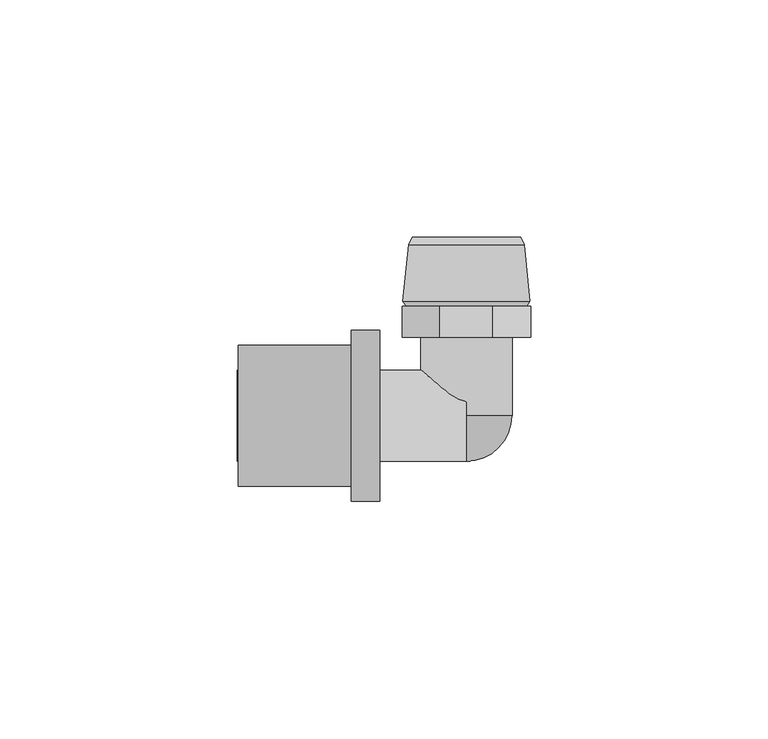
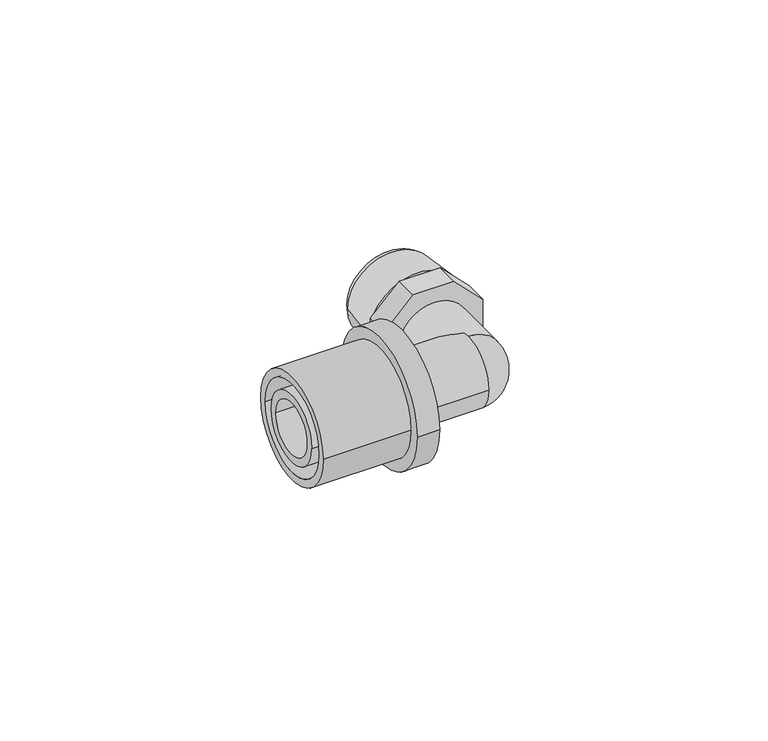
"""IFC4 building model written with IfcOpenShell, lengths in millimetres: pipe fitting geometry, FASTLOC_Elbow with male thread EX+ : FSL A internal AT."""

import ifcopenshell
import ifcopenshell.guid

model = None  # the IFC model being written
_history = None  # IfcOwnerHistory: only IFC2X3 demands one
_inside = {}  # id of a spatial element -> (the spatial element, [elements in it])
_under = {}  # id of a project, library or spatial element -> (it, [spatial elements below it])
_declared = {}  # id of a project -> (the project, [libraries it declares])
_typed = {}  # id of a type object -> (the type object, [elements of that type])
_made_of = {}  # id of a material, layer set ... -> (it, [elements and type objects made of it])


def new_model(schema):
    """Start an empty IFC model of exactly this schema.

    Asked for "IFC4X3", IfcOpenShell would pick the latest addendum, in which some entities
    have other attributes; the version numbers below select the first issue.
    IFC2X3 requires an IfcOwnerHistory on every rooted entity: one is made here for all.
    """
    global model, _history
    if schema == "IFC4X3":
        model = ifcopenshell.file(schema_version=(4, 3, 0, 0))
    else:
        model = ifcopenshell.file(schema=schema)
    _inside.clear()
    _under.clear()
    _declared.clear()
    _typed.clear()
    _made_of.clear()
    _history = None
    if model.schema == "IFC2X3":
        org = make("IfcOrganization", Name="unknown")
        user = make(
            "IfcPersonAndOrganization",
            ThePerson=make("IfcPerson", FamilyName="unknown"),
            TheOrganization=org,
        )
        app = make(
            "IfcApplication",
            ApplicationDeveloper=org,
            Version="unknown",
            ApplicationFullName="unknown",
            ApplicationIdentifier="unknown",
        )
        _history = make(
            "IfcOwnerHistory",
            OwningUser=user,
            OwningApplication=app,
            ChangeAction="ADDED",
            CreationDate=0,
        )
    return model


def make(cls, **values):
    """One entity of the class cls with the attributes given. An attribute that is None is left unset."""
    return model.create_entity(
        cls, **{name: value for name, value in values.items() if value is not None}
    )


def rooted(cls, **values):
    """An entity with a GlobalId (a new one), such as an element, a storey or a relation."""
    return make(cls, GlobalId=ifcopenshell.guid.new(), OwnerHistory=_history, **values)


def si_unit(unit_type, name, prefix=None):
    """IfcSIUnit, for example si_unit("LENGTHUNIT", "METRE", prefix="MILLI")."""
    return make("IfcSIUnit", UnitType=unit_type, Prefix=prefix, Name=name)


def assignment(units):
    """IfcUnitAssignment: the units of a project."""
    return None if units is None else make("IfcUnitAssignment", Units=units)


def point(xyz):
    """IfcCartesianPoint."""
    return None if xyz is None else make("IfcCartesianPoint", Coordinates=xyz)


def direction(xyz):
    """IfcDirection."""
    return None if xyz is None else make("IfcDirection", DirectionRatios=xyz)


def frame(location, z_axis=None, x_axis=None):
    """IfcAxis2Placement3D, a coordinate frame: its origin and axes. An axis left out is left unset."""
    return make(
        "IfcAxis2Placement3D",
        Location=point(location),
        Axis=direction(z_axis),
        RefDirection=direction(x_axis),
    )


def frame_2d(location, x_axis=None):
    """IfcAxis2Placement2D, a coordinate frame in the plane: its origin and x axis."""
    return make(
        "IfcAxis2Placement2D", Location=point(location), RefDirection=direction(x_axis)
    )


def origin():
    """The frame at (0, 0, 0) with its axes left unset."""
    return frame((0.0, 0.0, 0.0))


def origin_2d():
    """The frame at (0, 0) in the plane with its x axis left unset."""
    return frame_2d((0.0, 0.0))


def place(relative_to, where):
    """IfcLocalPlacement: puts the frame where relative to a parent placement (None: the world)."""
    return make(
        "IfcLocalPlacement", PlacementRelTo=relative_to, RelativePlacement=where
    )


def context(
    kind, dimensions, precision=None, world=None, true_north=None, identifier=None
):
    """IfcGeometricRepresentationContext, for example the 3D "Model" context."""
    return make(
        "IfcGeometricRepresentationContext",
        ContextIdentifier=identifier,
        ContextType=kind,
        CoordinateSpaceDimension=dimensions,
        Precision=precision,
        WorldCoordinateSystem=world,
        TrueNorth=true_north,
    )


def project(units=None, contexts=None):
    """IfcProject with its units and contexts."""
    return rooted(
        "IfcProject",
        Name="project",
        RepresentationContexts=contexts,
        UnitsInContext=assignment(units),
    )


def spatial(cls, under=None, at=None, **own):
    """A site, building, storey or space (cls), placed at a placement, below another one or the project."""
    s = rooted(cls, ObjectPlacement=at, **own)
    if under is not None:
        _under.setdefault(under.id(), (under, []))[1].append(s)
    return s


def polyline(points):
    """IfcPolyline through the points."""
    return make("IfcPolyline", Points=[point(p) for p in points])


def circle_curve(where, radius):
    """IfcCircle in the frame where."""
    return make("IfcCircle", Position=where, Radius=radius)


def ellipse_curve(where, semi_axis1, semi_axis2):
    """IfcEllipse in the frame where."""
    return make(
        "IfcEllipse", Position=where, SemiAxis1=semi_axis1, SemiAxis2=semi_axis2
    )


def trimmed(basis, trim1, trim2, sense, master):
    """IfcTrimmedCurve: the piece of a basis curve between two trims."""
    return make(
        "IfcTrimmedCurve",
        BasisCurve=basis,
        Trim1=trim1,
        Trim2=trim2,
        SenseAgreement=sense,
        MasterRepresentation=master,
    )


def segment(curve, same_sense, transition):
    """IfcCompositeCurveSegment."""
    return make(
        "IfcCompositeCurveSegment",
        Transition=transition,
        SameSense=same_sense,
        ParentCurve=curve,
    )


def composite_curve(segments, self_intersect=None):
    """IfcCompositeCurve: segments joined end to end."""
    return make("IfcCompositeCurve", Segments=segments, SelfIntersect=self_intersect)


def outline(outer, holes=None, kind="AREA"):
    """IfcArbitraryClosedProfileDef: a profile drawn as a closed curve; with holes, ...WithVoids."""
    if holes is None:
        return make("IfcArbitraryClosedProfileDef", ProfileType=kind, OuterCurve=outer)
    return make(
        "IfcArbitraryProfileDefWithVoids",
        ProfileType=kind,
        OuterCurve=outer,
        InnerCurves=holes,
    )


def extrude(swept, where, along, depth):
    """IfcExtrudedAreaSolid: the profile swept, set in the frame where, extruded along a direction by depth."""
    return make(
        "IfcExtrudedAreaSolid",
        SweptArea=swept,
        Position=where,
        ExtrudedDirection=direction(along),
        Depth=depth,
    )


def shape(context_of_items, identifier, shape_type, items):
    """IfcShapeRepresentation: the items that make up one representation, for example the "Body"."""
    return make(
        "IfcShapeRepresentation",
        ContextOfItems=context_of_items,
        RepresentationIdentifier=identifier,
        RepresentationType=shape_type,
        Items=items,
    )


def source(mapping_origin, context_of_items, identifier, shape_type, items):
    """IfcRepresentationMap: a shape defined once, which mapped items show again and again."""
    return make(
        "IfcRepresentationMap",
        MappingOrigin=mapping_origin,
        MappedRepresentation=shape(context_of_items, identifier, shape_type, items),
    )


def transform(
    local_origin,
    x_axis=None,
    y_axis=None,
    z_axis=None,
    scale=None,
    scale2=None,
    scale3=None,
    uniform=True,
):
    """IfcCartesianTransformationOperator3D, or its non-uniform kind. x_axis, y_axis, z_axis: its Axis1, 2, 3."""
    if uniform:
        return make(
            "IfcCartesianTransformationOperator3D",
            Axis1=direction(x_axis),
            Axis2=direction(y_axis),
            LocalOrigin=point(local_origin),
            Scale=scale,
            Axis3=direction(z_axis),
        )
    return make(
        "IfcCartesianTransformationOperator3DnonUniform",
        Axis1=direction(x_axis),
        Axis2=direction(y_axis),
        LocalOrigin=point(local_origin),
        Scale=scale,
        Axis3=direction(z_axis),
        Scale2=scale2,
        Scale3=scale3,
    )


def mapped(mapping_source, mapping_target):
    """IfcMappedItem: shows the shape of a source again, moved by a transform."""
    return make(
        "IfcMappedItem", MappingSource=mapping_source, MappingTarget=mapping_target
    )


def made_of(thing, what):
    """Note that an element or type object is made of a material, layer set ...; save() writes the relation."""
    if what is not None:
        _made_of.setdefault(what.id(), (what, []))[1].append(thing)
    return thing


def element(
    cls,
    number,
    at=None,
    inside=None,
    cuts=None,
    type_object=None,
    material=None,
    context=None,
    identifier="Body",
    shape_type=None,
    held_by="IfcProductDefinitionShape",
    body=None,
    shapes=None,
    **own,
):
    """One element of the class cls, such as IfcWall. Its Tag is "e" and its number.

    at: its placement. inside: the storey or other place that contains it. cuts: it is an
    opening in that element (IfcRelVoidsElement). A single representation is given by context,
    identifier, shape_type and body (its items); several are given by shapes. held_by: the class
    of the entity that holds the representations. save() writes the other relations.
    """
    e = rooted(cls, Tag="e%d" % number, ObjectPlacement=at, **own)
    if body is not None:
        shapes = [shape(context, identifier, shape_type, body)]
    if shapes is not None:
        e.Representation = make(held_by, Representations=shapes)
    if inside is not None:
        _inside.setdefault(inside.id(), (inside, []))[1].append(e)
    if cuts is not None:
        rooted(
            "IfcRelVoidsElement", RelatingBuildingElement=cuts, RelatedOpeningElement=e
        )
    if type_object is not None:
        _typed.setdefault(type_object.id(), (type_object, []))[1].append(e)
    return made_of(e, material)


def aggregate(whole, parts):
    """IfcRelAggregates: a whole, such as a stair, and the parts it consists of."""
    return rooted("IfcRelAggregates", RelatingObject=whole, RelatedObjects=parts)


def save(model, path):
    """Write the relations noted so far, then the file.

    IfcRelAggregates (storeys below a building ...), IfcRelContainedInSpatialStructure (elements
    in a storey), IfcRelDefinesByType, IfcRelAssociatesMaterial and IfcRelDeclares: one each for
    every whole, place, type object, material and project.
    """
    for whole, parts in _under.values():
        aggregate(whole, parts)
    for where, things in _inside.values():
        rooted(
            "IfcRelContainedInSpatialStructure",
            RelatedElements=things,
            RelatingStructure=where,
        )
    for kind, things in _typed.values():
        rooted("IfcRelDefinesByType", RelatedObjects=things, RelatingType=kind)
    for what, things in _made_of.values():
        rooted("IfcRelAssociatesMaterial", RelatedObjects=things, RelatingMaterial=what)
    for by, libraries in _declared.values():
        rooted("IfcRelDeclares", RelatingContext=by, RelatedDefinitions=libraries)
    model.write(path)


def plane_surface(at):
    """IfcPlane: the flat surface through the origin of the frame at, square to its z axis."""
    return make("IfcPlane", Position=at)


def cylinder_surface(at, radius):
    """IfcCylindricalSurface: all points at the distance radius from the z axis of the frame at."""
    return make("IfcCylindricalSurface", Position=at, Radius=radius)


def revolved_surface(curve, axis_point, axis_direction):
    """IfcSurfaceOfRevolution: the curve turned about the line through axis_point along axis_direction."""
    return make(
        "IfcSurfaceOfRevolution",
        SweptCurve=make("IfcArbitraryOpenProfileDef", ProfileType="CURVE", Curve=curve),
        AxisPosition=make("IfcAxis1Placement", Location=point(axis_point), Axis=direction(axis_direction)),
    )


def advanced_brep(points, edges, surfaces, faces):
    """IfcAdvancedBrep: a solid bounded by faces that lie on surfaces and meet in shared edges.

    An edge is (start, end): straight between two places in points (the first is 0);
    or (start, end, curve); or (start, end, curve, False) where it runs against its curve.
    A face is (place in surfaces, loops), or (place, loops, False) where it looks against
    its surface's normal. A loop lists edges by number (the first is 1), with a minus sign
    where the edge is run from its end to its start. The first loop is the outer one.
    """
    corners = [point(p) for p in points]
    vertices = [make("IfcVertexPoint", VertexGeometry=c) for c in corners]
    made = []
    for start, end, *more in edges:
        made.append(
            make(
                "IfcEdgeCurve",
                EdgeStart=vertices[start],
                EdgeEnd=vertices[end],
                EdgeGeometry=more[0] if more else make("IfcPolyline", Points=[corners[start], corners[end]]),
                SameSense=more[1] if len(more) > 1 else True,
            )
        )
    hull = []
    for where, loops, *sense in faces:
        bounds = []
        for j, loop in enumerate(loops):
            ring = [make("IfcOrientedEdge", EdgeElement=made[abs(k) - 1], Orientation=k > 0) for k in loop]
            bounds.append(
                make(
                    "IfcFaceOuterBound" if j == 0 else "IfcFaceBound",
                    Bound=make("IfcEdgeLoop", EdgeList=ring),
                    Orientation=True,
                )
            )
        hull.append(make("IfcAdvancedFace", Bounds=bounds, FaceSurface=surfaces[where], SameSense=sense[0] if sense else True))
    return make("IfcAdvancedBrep", Outer=make("IfcClosedShell", CfsFaces=hull))


def pipe_fitting_d71fb650(model_context):
    return source(origin(), model_context, "Body", "SolidModel", [
        advanced_brep(
        [(-24.2, -18.0, 0.0), (-24.2, 18.0, 0.0), (-18.2, 18.0, 0.0), (-18.2, -18.0, 0.0), (-48.0, -14.85, 0.0), (-48.0, 14.85, 0.0), (-24.2, 14.85, 0.0), (-24.2, -14.85, 0.0), (-18.2, -12.65, 0.0), (-18.2, 12.65, 0.0), (-48.0, 12.65, 0.0), (-48.0, -12.65, 0.0)],
        [
            (0, 1, circle_curve(frame((-24.2, 0.0, 0.0), z_axis=(1.0, 0.0, 0.0), x_axis=(0.0, 1.0, 0.0)), 18.0)),
            (1, 2),
            (2, 3, circle_curve(frame((-18.2, 0.0, 0.0), z_axis=(-1.0, 0.0, 0.0), x_axis=(0.0, 1.0, 0.0)), 18.0)),
            (3, 0),
            (4, 5, circle_curve(frame((-48.0, 0.0, 0.0), z_axis=(1.0, 0.0, 0.0), x_axis=(0.0, 1.0, 0.0)), 14.85)),
            (5, 6),
            (6, 7, circle_curve(frame((-24.2, 0.0, 0.0), z_axis=(-1.0, 0.0, 0.0), x_axis=(0.0, 1.0, 0.0)), 14.85)),
            (7, 4),
            (8, 9, circle_curve(frame((-18.2, 0.0, 0.0), z_axis=(1.0, 0.0, 0.0), x_axis=(0.0, 1.0, 0.0)), 12.65)),
            (9, 10),
            (10, 11, circle_curve(frame((-48.0, 0.0, 0.0), z_axis=(-1.0, 0.0, 0.0), x_axis=(0.0, 1.0, 0.0)), 12.65)),
            (11, 8),
            (1, 0, circle_curve(frame((-24.2, 0.0, 0.0), z_axis=(1.0, 0.0, 0.0), x_axis=(0.0, -1.0, 0.0)), 18.0)),
            (3, 2, circle_curve(frame((-18.2, 0.0, 0.0), z_axis=(-1.0, 0.0, 0.0), x_axis=(0.0, -1.0, 0.0)), 18.0)),
            (6, 7, circle_curve(frame((-24.2, 0.0, 0.0), z_axis=(1.0, 0.0, 0.0), x_axis=(0.0, -1.0, 0.0)), 14.85)),
            (5, 4, circle_curve(frame((-48.0, 0.0, 0.0), z_axis=(1.0, 0.0, 0.0), x_axis=(0.0, -1.0, 0.0)), 14.85)),
            (10, 11, circle_curve(frame((-48.0, 0.0, 0.0), z_axis=(1.0, 0.0, 0.0), x_axis=(0.0, -1.0, 0.0)), 12.65)),
            (9, 8, circle_curve(frame((-18.2, 0.0, 0.0), z_axis=(1.0, 0.0, 0.0), x_axis=(0.0, -1.0, 0.0)), 12.65)),
        ],
        [
            cylinder_surface(frame((-18.2, 0.0, 0.0), z_axis=(-1.0, 0.0, 0.0), x_axis=(0.0, 1.0, 0.0)), 18.0),
            cylinder_surface(frame((-18.2, 0.0, 0.0), z_axis=(-1.0, 0.0, 0.0), x_axis=(0.0, 1.0, 0.0)), 14.85),
            revolved_surface(polyline([(-48.0, 12.65, 0.0), (-18.2, 12.65, 0.0)]), (-18.2, 0.0, 0.0), (-1.0, 0.0, 0.0)),
            cylinder_surface(frame((-18.2, 0.0, 0.0), z_axis=(-1.0, 0.0, 0.0), x_axis=(0.0, -1.0, 0.0)), 18.0),
            plane_surface(frame((-24.2, 0.0, 0.0), z_axis=(-1.0, 0.0, 0.0), x_axis=(0.0, -1.0, 0.0))),
            cylinder_surface(frame((-18.2, 0.0, 0.0), z_axis=(-1.0, 0.0, 0.0), x_axis=(0.0, -1.0, 0.0)), 14.85),
            plane_surface(frame((-48.0, 0.0, 0.0), z_axis=(-1.0, 0.0, 0.0), x_axis=(0.0, -1.0, 0.0))),
            revolved_surface(polyline([(-48.0, -12.65, 0.0), (-18.2, -12.65, 0.0)]), (-18.2, 0.0, 0.0), (-1.0, 0.0, 0.0)),
            plane_surface(frame((-18.2, 0.0, 0.0), z_axis=(1.0, 0.0, 0.0), x_axis=(0.0, -1.0, 0.0))),
        ],
        [
            (0, [[1, 2, 3, 4]]),
            (1, [[5, 6, 7, 8]]),
            (2, [[9, 10, 11, 12]]),
            (3, [[13, -4, 14, -2]]),
            (4, [[-13, -1], [15, -7]]),
            (5, [[16, -8, -15, -6]]),
            (6, [[-16, -5], [17, -11]]),
            (7, [[18, -12, -17, -10]]),
            (8, [[-14, -3], [-18, -9]]),
        ],
    ),
        advanced_brep(
        [(12.15, 36.0000007, 0.0), (-12.15, 36.0000007, 0.0), (-11.45, 37.5, 0.0), (11.45, 37.5, 0.0), (13.35, 24.0531902, 0.0), (-13.35, 24.0531902, 0.0), (12.7, 23.0, 0.0), (-12.7, 23.0, 0.0), (9.5, 24.4157803, 0.0), (-9.5, 24.4157803, 0.0), (-8.3967197, 23.0, 0.0), (8.3967197, 23.0, 0.0), (9.5, 37.5, 0.0), (-9.5, 37.5, 0.0)],
        [
            (0, 1, circle_curve(frame((0.0, 36.0000007, 0.0), z_axis=(0.0, 1.0, 0.0), x_axis=(-1.0, 0.0, 0.0)), 12.15)),
            (1, 2),
            (2, 3, circle_curve(frame((0.0, 37.5, 0.0), z_axis=(0.0, -1.0, 0.0), x_axis=(-1.0, 0.0, 0.0)), 11.45)),
            (3, 0),
            (4, 5, circle_curve(frame((0.0, 24.0531902, 0.0), z_axis=(0.0, 1.0, 0.0), x_axis=(-1.0, 0.0, 0.0)), 13.35)),
            (5, 1),
            (0, 4),
            (6, 7, circle_curve(frame((0.0, 23.0, 0.0), z_axis=(0.0, 1.0, 0.0), x_axis=(-1.0, 0.0, 0.0)), 12.7)),
            (7, 5),
            (4, 6),
            (8, 9, circle_curve(frame((0.0, 24.4157803, 0.0), z_axis=(0.0, 1.0, 0.0), x_axis=(-1.0, 0.0, 0.0)), 9.5)),
            (9, 10),
            (10, 11, circle_curve(frame((0.0, 23.0, 0.0), z_axis=(0.0, -1.0, 0.0), x_axis=(-1.0, 0.0, 0.0)), 8.3967197)),
            (11, 8),
            (12, 13, circle_curve(frame((0.0, 37.5, 0.0), z_axis=(0.0, 1.0, 0.0), x_axis=(-1.0, 0.0, 0.0)), 9.5)),
            (13, 9),
            (8, 12),
            (2, 3, circle_curve(frame((0.0, 37.5, 0.0), z_axis=(0.0, 1.0, 0.0), x_axis=(1.0, 0.0, 0.0)), 11.45)),
            (12, 13, circle_curve(frame((0.0, 37.5, 0.0), z_axis=(0.0, -1.0, 0.0), x_axis=(1.0, 0.0, 0.0)), 9.5)),
            (1, 0, circle_curve(frame((0.0, 36.0000007, 0.0), z_axis=(0.0, 1.0, 0.0), x_axis=(1.0, 0.0, 0.0)), 12.15)),
            (5, 4, circle_curve(frame((0.0, 24.0531902, 0.0), z_axis=(0.0, 1.0, 0.0), x_axis=(1.0, 0.0, 0.0)), 13.35)),
            (7, 6, circle_curve(frame((0.0, 23.0, 0.0), z_axis=(0.0, 1.0, 0.0), x_axis=(1.0, 0.0, 0.0)), 12.7)),
            (10, 11, circle_curve(frame((0.0, 23.0, 0.0), z_axis=(0.0, 1.0, 0.0), x_axis=(1.0, 0.0, 0.0)), 8.3967197)),
            (9, 8, circle_curve(frame((0.0, 24.4157803, 0.0), z_axis=(0.0, 1.0, 0.0), x_axis=(1.0, 0.0, 0.0)), 9.5)),
        ],
        [
            revolved_surface(polyline([(-11.45, 37.5, 0.0), (-12.15, 36.0000007, 0.0)]), (0.0, 16.5, 0.0), (0.0, -1.0, 0.0)),
            revolved_surface(polyline([(-12.15, 36.0000007, 0.0), (-13.35, 24.0531902, 0.0)]), (0.0, 16.5, 0.0), (0.0, -1.0, 0.0)),
            revolved_surface(polyline([(-13.35, 24.0531902, 0.0), (-12.7, 23.0, 0.0)]), (0.0, 16.5, 0.0), (0.0, -1.0, 0.0)),
            revolved_surface(polyline([(-8.3967197, 23.0, 0.0), (-9.5, 24.4157803, 0.0)]), (0.0, 16.5, 0.0), (0.0, -1.0, 0.0)),
            revolved_surface(polyline([(-9.5, 24.4157803, 0.0), (-9.5, 37.5, 0.0)]), (0.0, 16.5, 0.0), (0.0, -1.0, 0.0)),
            plane_surface(frame((0.0, 37.5, 0.0), z_axis=(0.0, 1.0, 0.0), x_axis=(1.0, 0.0, 0.0))),
            revolved_surface(polyline([(11.45, 37.5, 0.0), (12.15, 36.0000007, 0.0)]), (0.0, 16.5, 0.0), (0.0, -1.0, 0.0)),
            revolved_surface(polyline([(12.15, 36.0000007, 0.0), (13.35, 24.0531902, 0.0)]), (0.0, 16.5, 0.0), (0.0, -1.0, 0.0)),
            revolved_surface(polyline([(13.35, 24.0531902, 0.0), (12.7, 23.0, 0.0)]), (0.0, 16.5, 0.0), (0.0, -1.0, 0.0)),
            plane_surface(frame((0.0, 23.0, 0.0), z_axis=(0.0, -1.0, 0.0), x_axis=(1.0, 0.0, 0.0))),
            revolved_surface(polyline([(8.3967197, 23.0, 0.0), (9.5, 24.4157803, 0.0)]), (0.0, 16.5, 0.0), (0.0, -1.0, 0.0)),
            revolved_surface(polyline([(9.5, 24.4157803, 0.0), (9.5, 37.5, 0.0)]), (0.0, 16.5, 0.0), (0.0, -1.0, 0.0)),
        ],
        [
            (0, [[1, 2, 3, 4]]),
            (1, [[5, 6, -1, 7]]),
            (2, [[8, 9, -5, 10]]),
            (3, [[11, 12, 13, 14]]),
            (4, [[15, 16, -11, 17]]),
            (5, [[18, -3], [19, -15]]),
            (6, [[20, -4, -18, -2]]),
            (7, [[21, -7, -20, -6]]),
            (8, [[22, -10, -21, -9]]),
            (9, [[-22, -8], [23, -13]]),
            (10, [[24, -14, -23, -12]]),
            (11, [[-19, -17, -24, -16]]),
        ],
    ),
        advanced_brep(
        [(-24.2, 9.6, 0.0), (-24.2, -9.6, 0.0), (-48.2, -9.6, 0.0), (-48.2, 9.6, 0.0), (-21.4, 11.1, 0.0), (-21.4, -11.1, 0.0), (-24.2, -11.1, 0.0), (-24.2, 11.1, 0.0), (0.0, 9.6, 0.0), (0.0, -9.6, 0.0), (-21.4, -9.6, 0.0), (-21.4, 9.6, 0.0), (-48.2, 7.35, 0.0), (-48.2, -7.35, 0.0), (0.0, -7.35, 0.0), (0.0, 7.35, 0.0)],
        [
            (0, 1, circle_curve(frame((-24.2, 0.0, 0.0), z_axis=(-1.0, 0.0, 0.0), x_axis=(0.0, -1.0, 0.0)), 9.6)),
            (1, 2),
            (2, 3, circle_curve(frame((-48.2, 0.0, 0.0), z_axis=(1.0, 0.0, 0.0), x_axis=(0.0, -1.0, 0.0)), 9.6)),
            (3, 0),
            (4, 5, circle_curve(frame((-21.4, 0.0, 0.0), z_axis=(-1.0, 0.0, 0.0), x_axis=(0.0, -1.0, 0.0)), 11.1)),
            (5, 6),
            (6, 7, circle_curve(frame((-24.2, 0.0, 0.0), z_axis=(1.0, 0.0, 0.0), x_axis=(0.0, -1.0, 0.0)), 11.1)),
            (7, 4),
            (8, 9, circle_curve(frame((0.0, 0.0, 0.0), z_axis=(-1.0, 0.0, 0.0), x_axis=(0.0, -1.0, 0.0)), 9.6)),
            (9, 10),
            (10, 11, circle_curve(frame((-21.4, 0.0, 0.0), z_axis=(1.0, 0.0, 0.0), x_axis=(0.0, -1.0, 0.0)), 9.6)),
            (11, 8),
            (12, 13, circle_curve(frame((-48.2, 0.0, 0.0), z_axis=(-1.0, 0.0, 0.0), x_axis=(0.0, -1.0, 0.0)), 7.35)),
            (13, 14),
            (14, 15, circle_curve(frame((0.0, 0.0, 0.0), z_axis=(1.0, 0.0, 0.0), x_axis=(0.0, -1.0, 0.0)), 7.35)),
            (15, 12),
            (2, 3, circle_curve(frame((-48.2, 0.0, 0.0), z_axis=(-1.0, 0.0, 0.0), x_axis=(0.0, 1.0, 0.0)), 9.6)),
            (12, 13, circle_curve(frame((-48.2, 0.0, 0.0), z_axis=(1.0, 0.0, 0.0), x_axis=(0.0, 1.0, 0.0)), 7.35)),
            (1, 0, circle_curve(frame((-24.2, 0.0, 0.0), z_axis=(-1.0, 0.0, 0.0), x_axis=(0.0, 1.0, 0.0)), 9.6)),
            (6, 7, circle_curve(frame((-24.2, 0.0, 0.0), z_axis=(-1.0, 0.0, 0.0), x_axis=(0.0, 1.0, 0.0)), 11.1)),
            (5, 4, circle_curve(frame((-21.4, 0.0, 0.0), z_axis=(-1.0, 0.0, 0.0), x_axis=(0.0, 1.0, 0.0)), 11.1)),
            (10, 11, circle_curve(frame((-21.4, 0.0, 0.0), z_axis=(-1.0, 0.0, 0.0), x_axis=(0.0, 1.0, 0.0)), 9.6)),
            (9, 8, circle_curve(frame((0.0, 0.0, 0.0), z_axis=(-1.0, 0.0, 0.0), x_axis=(0.0, 1.0, 0.0)), 9.6)),
            (14, 15, circle_curve(frame((0.0, 0.0, 0.0), z_axis=(-1.0, 0.0, 0.0), x_axis=(0.0, 1.0, 0.0)), 7.35)),
        ],
        [
            cylinder_surface(frame((0.0, 0.0, 0.0), z_axis=(1.0, 0.0, 0.0), x_axis=(0.0, -1.0, 0.0)), 9.6),
            cylinder_surface(frame((0.0, 0.0, 0.0), z_axis=(1.0, 0.0, 0.0), x_axis=(0.0, -1.0, 0.0)), 11.1),
            revolved_surface(polyline([(0.0, -7.35, 0.0), (-48.2, -7.35, 0.0)]), (0.0, 0.0, 0.0), (1.0, 0.0, 0.0)),
            plane_surface(frame((-48.2, 0.0, 0.0), z_axis=(-1.0, 0.0, 0.0), x_axis=(0.0, 1.0, 0.0))),
            cylinder_surface(frame((0.0, 0.0, 0.0), z_axis=(1.0, 0.0, 0.0), x_axis=(0.0, 1.0, 0.0)), 9.6),
            plane_surface(frame((-24.2, 0.0, 0.0), z_axis=(-1.0, 0.0, 0.0), x_axis=(0.0, 1.0, 0.0))),
            cylinder_surface(frame((0.0, 0.0, 0.0), z_axis=(1.0, 0.0, 0.0), x_axis=(0.0, 1.0, 0.0)), 11.1),
            plane_surface(frame((-21.4, 0.0, 0.0), z_axis=(1.0, 0.0, 0.0), x_axis=(0.0, 1.0, 0.0))),
            plane_surface(frame((0.0, 0.0, 0.0), z_axis=(1.0, 0.0, 0.0), x_axis=(0.0, 1.0, 0.0))),
            revolved_surface(polyline([(0.0, 7.35, 0.0), (-48.2, 7.35, 0.0)]), (0.0, 0.0, 0.0), (1.0, 0.0, 0.0)),
        ],
        [
            (0, [[1, 2, 3, 4]]),
            (1, [[5, 6, 7, 8]]),
            (0, [[9, 10, 11, 12]]),
            (2, [[13, 14, 15, 16]]),
            (3, [[17, -3], [18, -13]]),
            (4, [[19, -4, -17, -2]]),
            (5, [[20, -7], [-19, -1]]),
            (6, [[21, -8, -20, -6]]),
            (7, [[-21, -5], [22, -11]]),
            (4, [[23, -12, -22, -10]]),
            (8, [[-23, -9], [24, -15]]),
            (9, [[-18, -16, -24, -14]]),
        ],
    ),
        advanced_brep(
        [(0.0, -9.6, 0.0), (0.0, 0.0, 9.6), (0.0, 0.0, 7.35), (0.0, -7.35, 0.0), (0.0, 0.0, -7.35), (0.0, 0.0, -9.6)],
        [
            (0, 1, circle_curve(frame((0.0, 0.0, 0.0), z_axis=(-1.0, 0.0, 0.0), x_axis=(0.0, 0.0, 1.0)), 9.6)),
            (1, 2),
            (2, 3, circle_curve(frame((0.0, 0.0, 0.0), z_axis=(1.0, 0.0, 0.0), x_axis=(0.0, 0.0, 1.0)), 7.35)),
            (3, 0),
            (3, 4, circle_curve(frame((0.0, 0.0, 0.0), z_axis=(1.0, 0.0, 0.0), x_axis=(0.0, 0.0, -1.0)), 7.35)),
            (4, 5),
            (5, 0, circle_curve(frame((0.0, 0.0, 0.0), z_axis=(-1.0, 0.0, 0.0), x_axis=(0.0, 0.0, -1.0)), 9.6)),
            (5, 1, circle_curve(frame((0.0, 0.0, 0.0), z_axis=(0.0, -1.0, 0.0), x_axis=(0.0, 0.0, 1.0)), 9.6)),
            (4, 2, circle_curve(frame((0.0, 0.0, 0.0), z_axis=(0.0, -1.0, 0.0), x_axis=(0.0, 0.0, 1.0)), 7.35)),
        ],
        [
            plane_surface(frame((0.0, 0.0, 0.0), z_axis=(-1.0, 0.0, 0.0), x_axis=(0.0, 0.0, 1.0))),
            plane_surface(frame((0.0, 0.0, 0.0), z_axis=(-1.0, 0.0, 0.0), x_axis=(0.0, 0.0, -1.0))),
            revolved_surface(trimmed(ellipse_curve(frame((0.0, 0.0, 0.0), z_axis=(-1.0, 0.0, 0.0), x_axis=(0.0, 0.0, 1.0)), 9.6, 9.6), [point((0.0, -9.6, 0.0))], [point((0.0, 0.0, 9.6))], True, "CARTESIAN"), (0.0, 0.0, 0.0), (0.0, 1.0, 0.0)),
            plane_surface(frame((0.0, 0.0, 0.0), z_axis=(0.0, 1.0, 0.0), x_axis=(0.0, 0.0, 1.0))),
            revolved_surface(trimmed(ellipse_curve(frame((0.0, 0.0, 0.0), z_axis=(1.0, 0.0, 0.0), x_axis=(0.0, 0.0, 1.0)), 7.35, 7.35), [point((0.0, 0.0, 7.35))], [point((0.0, -7.35, 0.0))], True, "CARTESIAN"), (0.0, 0.0, 0.0), (0.0, 1.0, 0.0)),
        ],
        [
            (0, [[1, 2, 3, 4]]),
            (1, [[5, 6, 7, -4]]),
            (2, [[8, -1, -7]]),
            (3, [[9, -2, -8, -6]]),
            (4, [[-3, -9, -5]]),
        ],
    ),
        extrude(outline(polyline([(-13.5, 5.5918831), (-5.5918831, 13.5), (5.5918831, 13.5), (13.5, 5.5918831), (13.5, -5.5918831), (5.5918831, -13.5), (-5.5918831, -13.5), (-13.5, -5.5918831), (-13.5, 5.5918831)])), frame((0.0, 16.5, 0.0), z_axis=(0.0, 1.0, 0.0), x_axis=(0.0, 0.0, 1.0)), (0.0, 0.0, 1.0), 6.5),
        extrude(outline(composite_curve([segment(trimmed(circle_curve(origin_2d(), 9.6), [point((0.0, -9.6))], [point((0.0, 9.6))], False, "CARTESIAN"), True, "CONTINUOUS"), segment(trimmed(circle_curve(origin_2d(), 9.6), [point((0.0, 9.6))], [point((0.0, -9.6))], False, "CARTESIAN"), True, "CONTINUOUS")], self_intersect=False), holes=[composite_curve([segment(trimmed(circle_curve(origin_2d(), 7.35), [point((0.0, -7.35))], [point((0.0, 7.35))], True, "CARTESIAN"), True, "CONTINUOUS"), segment(trimmed(circle_curve(origin_2d(), 7.35), [point((0.0, 7.35))], [point((0.0, -7.35))], True, "CARTESIAN"), True, "CONTINUOUS")], self_intersect=False)]), frame((0.0, 0.0, 0.0), z_axis=(0.0, 1.0, 0.0), x_axis=(0.0, 0.0, 1.0)), (0.0, 0.0, 1.0), 16.5),
    ])


if __name__ == "__main__":
    model = new_model("IFC4")
    model_context = context("Model", 3, world=origin())
    ifc_project = project(units=[si_unit("LENGTHUNIT", "METRE", prefix="MILLI")], contexts=[model_context])
    site = spatial("IfcSite", under=ifc_project)
    building = spatial("IfcBuilding", under=site)
    placement = place(None, origin())
    pipe_fitting_shape = pipe_fitting_d71fb650(model_context)
    element("IfcPipeFitting", 1, ObjectType="FASTLOC_Elbow with male thread EX+ : FSL A internal AT", at=placement, inside=building, context=model_context, shape_type="MappedRepresentation", body=[
        mapped(pipe_fitting_shape, transform((0.0, 0.0, 0.0), x_axis=(1.0, 0.0, 0.0), y_axis=(0.0, 1.0, 0.0), z_axis=(0.0, 0.0, 1.0))),
    ])
    save(model, "model.ifc")
